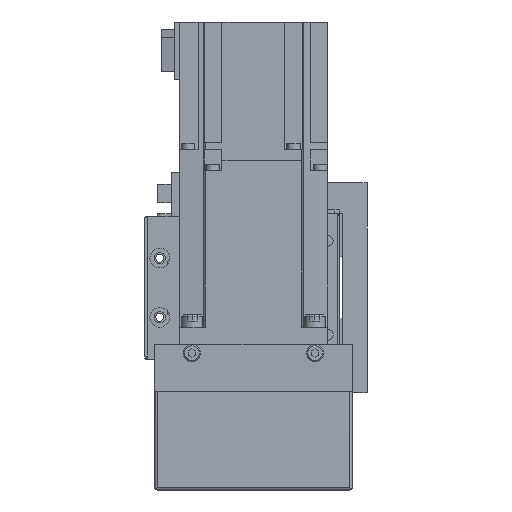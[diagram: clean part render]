
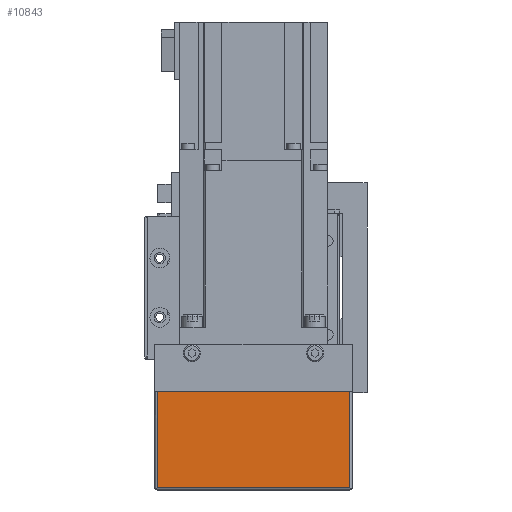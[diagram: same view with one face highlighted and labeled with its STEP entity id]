
A CAD part, left-side view. The second image highlights one B-rep face of the part: STEP entity #10843.
In plain terms, the highlighted planar face has unit normal (-1, 0, 0) as drawn and (0, 1, 0) by its records, which use the part's own axes.
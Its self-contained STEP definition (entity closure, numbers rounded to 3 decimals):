
#2522=ORIENTED_EDGE('',*,*,#4591,.T.);
#2523=ORIENTED_EDGE('',*,*,#4592,.T.);
#2524=ORIENTED_EDGE('',*,*,#4593,.F.);
#2525=ORIENTED_EDGE('',*,*,#4594,.T.);
#4591=EDGE_CURVE('',#5814,#5815,#6854,.T.);
#4592=EDGE_CURVE('',#5815,#5816,#6855,.T.);
#4593=EDGE_CURVE('',#5817,#5816,#6856,.T.);
#4594=EDGE_CURVE('',#5817,#5814,#6857,.T.);
#5814=VERTEX_POINT('',#17409);
#5815=VERTEX_POINT('',#17410);
#5816=VERTEX_POINT('',#17412);
#5817=VERTEX_POINT('',#17414);
#6854=LINE('',#17408,#7902);
#6855=LINE('',#17411,#7903);
#6856=LINE('',#17413,#7904);
#6857=LINE('',#17415,#7905);
#7902=VECTOR('',#14221,1000.);
#7903=VECTOR('',#14222,1000.);
#7904=VECTOR('',#14223,1000.);
#7905=VECTOR('',#14224,1000.);
#8891=EDGE_LOOP('',(#2522,#2523,#2524,#2525));
#9765=FACE_BOUND('',#8891,.T.);
#10313=PLANE('',#11827);
#10843=ADVANCED_FACE('',(#9765),#10313,.T.);
#11827=AXIS2_PLACEMENT_3D('',#17407,#14219,#14220);
#14219=DIRECTION('',(0.,1.,0.));
#14220=DIRECTION('',(0.,0.,1.));
#14221=DIRECTION('',(0.,0.,1.));
#14222=DIRECTION('',(1.,0.,0.));
#14223=DIRECTION('',(0.,0.,1.));
#14224=DIRECTION('',(-1.,0.,0.));
#17407=CARTESIAN_POINT('',(40.,151.,-52.));
#17408=CARTESIAN_POINT('',(-39.,151.,-64.));
#17409=CARTESIAN_POINT('',(-39.,151.,-51.));
#17410=CARTESIAN_POINT('',(-39.,151.,-12.01));
#17411=CARTESIAN_POINT('',(40.,151.,-12.01));
#17412=CARTESIAN_POINT('',(39.,151.,-12.01));
#17413=CARTESIAN_POINT('',(39.,151.,-64.));
#17414=CARTESIAN_POINT('',(39.,151.,-51.));
#17415=CARTESIAN_POINT('',(52.,151.,-51.));
